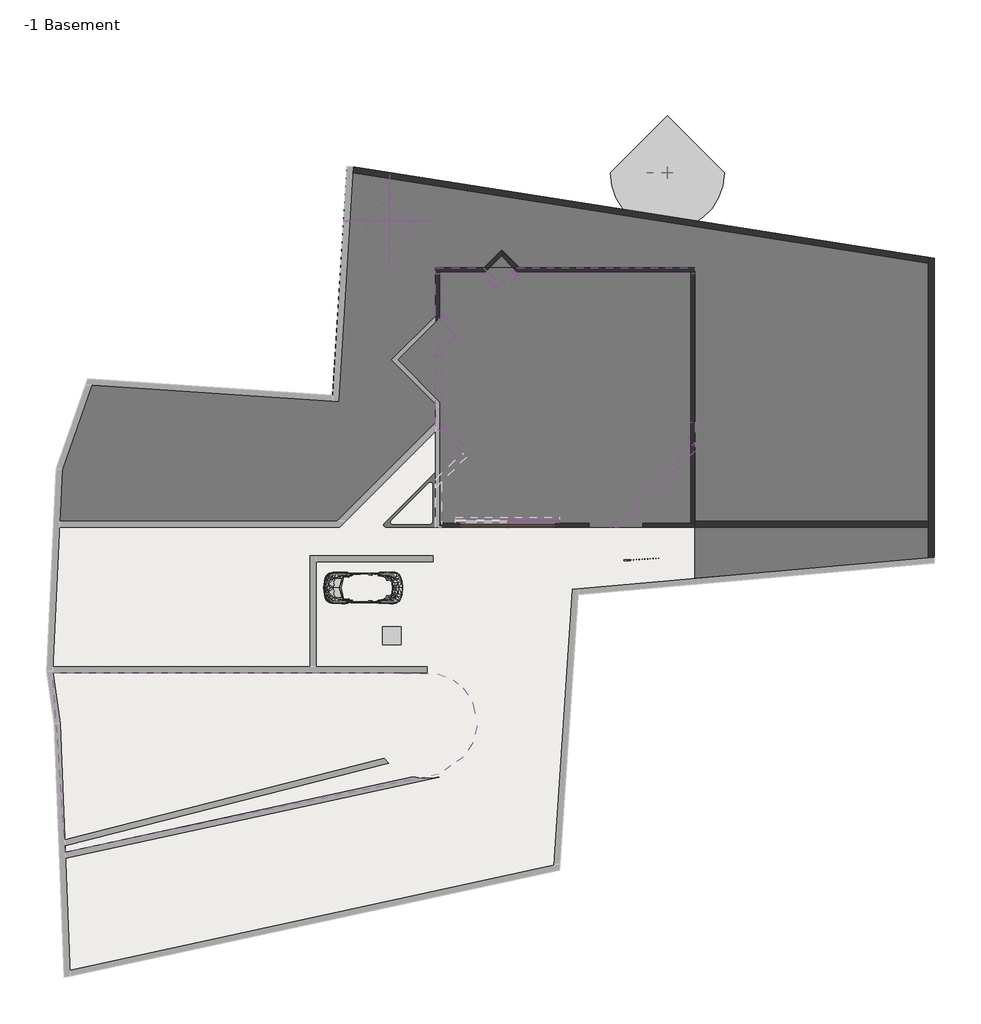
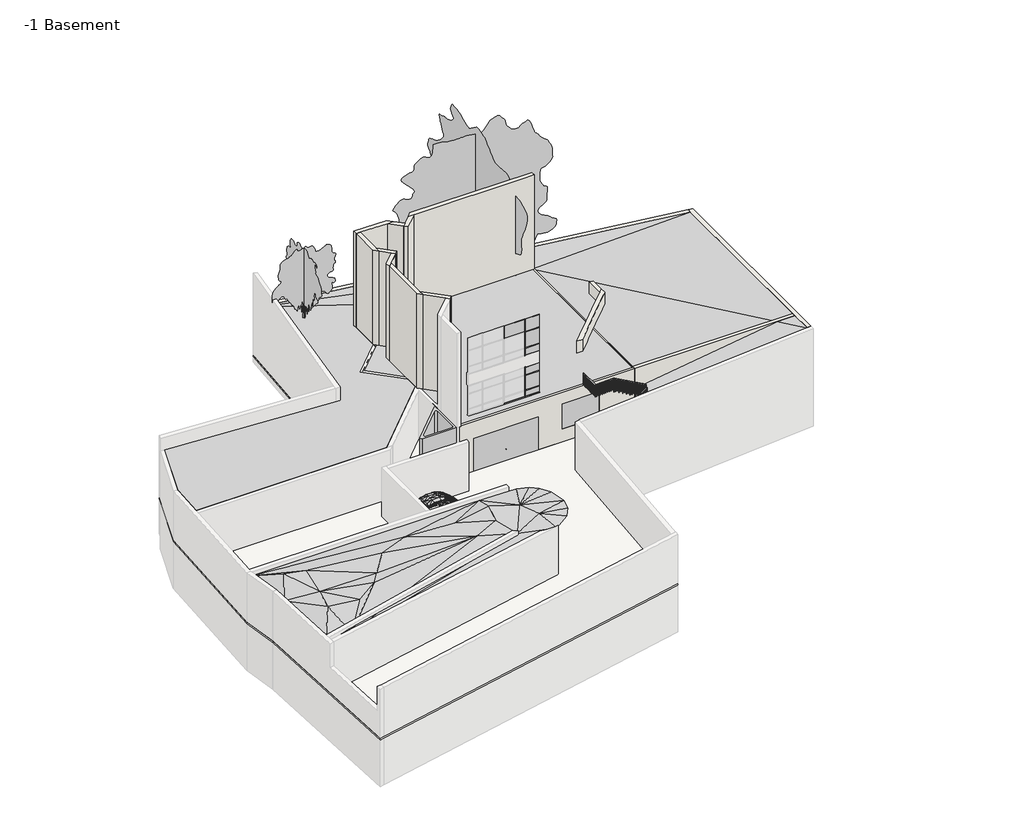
# One storey, part 2 of 2: 20 walls, 14 members, 7 plates, 7 proxies, 2 geographic elements, 2 slabs, 1 door, 1 railing.
"""IFC4 building model written with IfcOpenShell, lengths in millimetres."""

from ifc_helpers import new_model, si_unit, frame, origin, origin_with_axes, place, context, project, spatial, polyline, outline, extrude, faceted_brep, triangles, transform, mapped, element, save
from ifc_brep_helpers import plane_surface, spline_surface, advanced_brep
from components import generic_models_18_generic_models_18_6fc75e98, rpc_beetle_rpc_beetle_b6d71803, rpc_beetle_rpc_beetle_2_5a6a0a95, garage_horz_pnl_255_x_480cm_d9c095b1, m_rpc_tree_deciduous_golden_chain_5_5_meters_6778af60, m_rpc_tree_deciduous_scarlet_oak_12_5_meters_13b38d7d, rectangular_mullion_30mm_square_4687e423, rectangular_mullion_30mm_square_7fbbedd8, rectangular_mullion_30mm_square_75aafb43, rectangular_mullion_30mm_square_0d78bde2, rectangular_mullion_30mm_square_08ab3047, rectangular_mullion_30mm_square_f83bf9a0, rectangular_mullion_30mm_square_18d3f6a5, rectangular_mullion_30mm_square_d3a41906, rectangular_mullion_50_x_150mm_a0fd40aa, rectangular_mullion_50_x_150mm_81b7b0e2, system_panel_glazed_ab3019eb, system_panel_glazed_17731a82, system_panel_glazed_8e3a933b, system_panel_glazed_f915029c, system_panel_glazed_f884b1e2, system_panel_glazed_7ecb958b, system_panel_glazed_4e92a968, railing_900mm_5c761806

model = new_model("IFC4")

# Units and contexts
model_context = context("Model", 3, world=origin())
ifc_project = project(units=[si_unit("LENGTHUNIT", "METRE", prefix="MILLI")], contexts=[model_context])

# Site, building, storey
site = spatial("IfcSite", under=ifc_project)
building = spatial("IfcBuilding", under=site)
storey = spatial("IfcBuildingStorey", under=building, Name="-1 Basement", Elevation=-3800.0)

# Proxies
placement = place(None, origin())
element("IfcBuildingElementProxy", 1, Name="Building Element Proxy", at=placement, inside=storey, context=model_context, shape_type="Tessellation", body=[
    triangles([(-19194.8690643, -7299.999765, -300.0000023), (-18783.6116089, -10714.3227539, -300.0000023), (-18585.3388275, -15677.9267578, -300.0000023), (-2305.9245106, -11662.9171783, -300.0000023), (-2563.049659, -7299.999765, -300.0000023), (99.9998918, -7354.9417603, -300.0000023), (139.8018318, -12389.9297791, -300.0000023), (1868.9119411, -10802.6022491, -300.0000023), (1856.9100574, -8770.4175705, -300.0000023), (1377.2288715, -8063.4758377, -300.0000023), (880.8259592, -7665.8425507, -300.0000023), (2073.813969, -9957.2061768, -300.0000023), (1363.9179108, -11550.2042908, -300.0000023), (-16870.3504852, -15921.2537659, -300.0000023), (-18118.9777588, -16191.7360931, -300.0000023), (-18560.989151, -16287.4860626, -300.0000023), (-16130.5235504, -8884.7315231, 0.0), (-16556.7952057, -11326.1063416, 0.0), (-14774.2040131, -13341.2089233, 0.0), (-12410.3331848, -11364.8586273, 0.0), (-8883.9036667, -8807.227533, 0.0), (-5357.4735672, -9039.7395035, 0.0), (-2993.6030296, -10124.7947845, 0.0), (-823.4921768, -9388.5071686, 0.0), (-203.4605098, -10822.3301147, 0.0), (-4853.6979218, -11016.0903809, 0.0), (-11131.518219, -9892.2833954, 200.0000015), (-13185.3730865, -12411.162204, 200.0000015), (-17060.5714325, -13224.9532288, 200.0000015), (-17680.6021912, -8768.4758286, 200.0000015), (-2683.5870689, -8729.7235428, 200.0000015)], [[3, 16, 15], [16, 3, 1], [15, 16, 7], [3, 15, 14], [14, 19, 29], [19, 14, 28], [18, 19, 28], [19, 18, 29], [20, 28, 26], [14, 29, 3], [15, 7, 14], [3, 29, 2], [2, 18, 30], [18, 2, 29], [1, 30, 17], [30, 1, 2], [18, 17, 30], [2, 1, 3], [20, 27, 17], [21, 27, 26], [17, 21, 1], [21, 17, 27], [26, 27, 20], [20, 17, 18], [18, 28, 20], [1, 21, 5], [28, 14, 26], [26, 4, 23], [26, 14, 4], [25, 24, 4], [4, 24, 23], [4, 7, 25], [26, 23, 22], [8, 25, 13], [12, 25, 8], [13, 25, 7], [14, 7, 4], [24, 25, 12], [23, 31, 22], [31, 23, 24], [31, 5, 22], [5, 31, 24], [24, 6, 5], [22, 5, 21], [10, 11, 24], [6, 24, 11], [24, 9, 10], [24, 12, 9], [26, 22, 21]], closed=False),
])
element("IfcBuildingElementProxy", 2, Name="Basement Mass : Basement Mass", ObjectType="Basement Mass : Basement Mass", at=placement, inside=storey, context=model_context, shape_type="SweptSolid", body=[
    extrude(outline(polyline([(-0.0001061, 10571.6774773), (-0.0001061, 13000.0), (2428.3224166, 13000.0), (4171.9299029, 13000.0), (12999.9998939, 13000.0), (12999.9998939, -0.0002183), (-0.0001061, -0.0002183), (-0.0001061, 6176.8507655), (-2197.4135147, 8374.2640683), (-0.0001061, 10571.6774773)])), frame((0.0, 0.0, -3800.0), z_axis=(0.0, 0.0, 1.0), x_axis=(1.0, 0.0, 0.0)), (0.0, 0.0, 1.0), 3800.0),
])
generic_models_18_generic_models_18_shape = generic_models_18_generic_models_18_6fc75e98(model_context)
element("IfcBuildingElementProxy", 3, Name="Generic Models 18 : Generic Models 18", ObjectType="Generic Models 18 : Generic Models 18", at=placement, inside=storey, context=model_context, shape_type="MappedRepresentation", body=[
    mapped(generic_models_18_generic_models_18_shape, transform((0.0, 0.0, 0.0), x_axis=(1.0, 0.0, 0.0), y_axis=(0.0, 1.0, 0.0), z_axis=(0.0, 0.0, 1.0))),
])
element("IfcBuildingElementProxy", 4, Name="Mass 1 : Mass 1", ObjectType="Mass 1 : Mass 1", at=placement, inside=storey, context=model_context, shape_type="SweptSolid", body=[
    extrude(outline(polyline([(3300.1261598, 13871.8037432), (4171.9299029, 13000.0), (2428.3224166, 13000.0), (3300.1261598, 13871.8037432)])), frame((0.0, 0.0, -3800.0), z_axis=(0.0, 0.0, 1.0), x_axis=(1.0, 0.0, 0.0)), (0.0, 0.0, 1.0), 3800.0),
])
element("IfcBuildingElementProxy", 5, Name="Mass 4 : Mass 4", ObjectType="Mass 4 : Mass 4", at=placement, inside=storey, context=model_context, shape_type="AdvancedBrep", body=[
    advanced_brep(
    [(-17236.1757773, 7108.7626362, 0.0), (-4874.7149452, 6292.0078471, 0.0), (-4874.7149452, 6292.0078471, -3800.0), (-17236.1757773, 7108.7626362, -3800.0), (-18722.4830963, 2870.3642585, 0.0), (-18722.4830963, 2870.3642585, -3800.0), (-18846.1683426, 300.0, 0.0), (-18846.1683426, 300.0, -3800.0), (-4932.5902868, 300.0, 0.0), (-4932.5902868, 300.0, -3800.0), (-0.0001061, 5232.5901808, 0.0), (-0.0001061, 5232.5901808, -3800.0), (-0.0001061, 6296.8506597, 0.0), (-0.0001061, 6296.8506597, -3800.0), (-2047.4135147, 8344.2640683, 0.0), (-2047.4135147, 8344.2640683, -3800.0), (-0.0001061, 10391.6774773, 0.0), (-0.0001061, 10391.6774773, -3800.0), (-0.0001061, 13000.0, 0.0), (-0.0001061, 13000.0, -3800.0), (2488.3224166, 13000.0, 0.0), (2488.3224166, 13000.0, -3800.0), (3360.1261598, 13871.8037432, 0.0), (3360.1261598, 13871.8037432, -3800.0), (4231.9299029, 13000.0, 0.0), (4231.9299029, 13000.0, -3800.0), (13009.9750628, 12968.4174969, -150.0), (13000.0001123, 13000.0, -3800.0), (13000.0001123, -2573.8285121, -1802.358362), (13000.0001123, -2573.8285121, -3800.0), (24699.999894, -1565.3212522, 0.0), (24699.999894, -1565.3212522, -3800.0), (24699.999894, 13210.5247837, 0.0), (24699.999894, 13210.5247837, -3800.0), (-4150.0124004, 17746.0058263, 0.0), (-4150.0124004, 17746.0058263, -3800.0)],
    [
        (0, 1),
        (1, 2),
        (2, 3),
        (3, 0),
        (4, 0),
        (3, 5),
        (5, 4),
        (6, 4),
        (5, 7),
        (7, 6),
        (8, 6),
        (7, 9),
        (9, 8),
        (10, 8),
        (9, 11),
        (11, 10),
        (12, 10),
        (11, 13),
        (13, 12),
        (14, 12),
        (13, 15),
        (15, 14),
        (16, 14),
        (15, 17),
        (17, 16),
        (18, 16),
        (17, 19),
        (19, 18),
        (20, 18),
        (19, 21),
        (21, 20),
        (22, 20),
        (21, 23),
        (23, 22),
        (24, 22),
        (23, 25),
        (25, 24),
        (26, 24),
        (25, 27),
        (27, 26),
        (28, 26),
        (27, 29),
        (29, 28),
        (30, 28),
        (29, 31),
        (31, 30),
        (32, 30),
        (31, 33),
        (33, 32),
        (34, 32),
        (33, 35),
        (35, 34),
        (1, 34),
        (35, 2),
        (30, 26),
        (22, 26),
        (26, 34),
        (34, 22),
        (26, 32),
    ],
    [
        plane_surface(frame((-11055.4453612, 6700.3852416, 0.0), z_axis=(0.06592892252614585, 0.9978243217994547, 0.0), x_axis=(0.9978243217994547, -0.06592892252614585, 0.0))),
        plane_surface(frame((-17979.3294368, 4989.5634474, 0.0), z_axis=(-0.9436590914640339, 0.33091920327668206, 0.0), x_axis=(0.33091920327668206, 0.9436590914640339, 0.0))),
        plane_surface(frame((-18784.3257194, 1585.1821293, 0.0), z_axis=(-0.998844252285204, 0.048064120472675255, 0.0), x_axis=(0.048064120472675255, 0.998844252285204, 0.0))),
        plane_surface(frame((-11889.3793147, 300.0, 0.0), z_axis=(0.0, -1.0, 0.0), x_axis=(-1.0, 0.0, 0.0))),
        plane_surface(frame((-2466.2951964, 2766.2950904, 0.0), z_axis=(0.7071067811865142, -0.7071067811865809, 0.0), x_axis=(-0.7071067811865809, -0.7071067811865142, 0.0))),
        plane_surface(frame((-0.0001061, 5764.7204202, 0.0), z_axis=(1.0, 0.0, 0.0), x_axis=(0.0, -1.0, 0.0))),
        plane_surface(frame((-1023.7068104, 7320.557364, 0.0), z_axis=(0.7071067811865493, 0.7071067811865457, 0.0), x_axis=(0.7071067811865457, -0.7071067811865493, 0.0))),
        plane_surface(frame((-1023.7068104, 9367.9707728, 0.0), z_axis=(0.7071067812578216, -0.7071067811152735, 0.0), x_axis=(-0.7071067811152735, -0.7071067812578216, 0.0))),
        plane_surface(frame((-0.0001061, 11695.8387386, 0.0), z_axis=(1.0, 0.0, 0.0), x_axis=(0.0, -1.0, 0.0))),
        plane_surface(frame((1244.1611553, 13000.0, 0.0), z_axis=(0.0, -1.0, 0.0), x_axis=(-1.0, 0.0, 0.0))),
        plane_surface(frame((2924.2242882, 13435.9018716, 0.0), z_axis=(0.7071067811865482, -0.7071067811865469, 0.0), x_axis=(-0.7071067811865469, -0.7071067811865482, 0.0))),
        plane_surface(frame((3796.0280314, 13435.9018716, 0.0), z_axis=(-0.7071067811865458, -0.7071067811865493, 0.0), x_axis=(-0.7071067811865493, 0.7071067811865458, 0.0))),
        spline_surface(1, 1, [[(13009.9750628, 12968.4174969, -150.0), (13000.0001123, 13000.0, -3800.0)], [(4231.9299029, 13000.0, 0.0), (4231.9299029, 13000.0, -3800.0)]], [2, 2], [2, 2], [0.0, 1.0], [0.0, 1.0]),
        spline_surface(1, 1, [[(13000.0001123, -2573.8285121, -1802.358362), (13000.0001123, -2573.8285121, -3800.0)], [(13009.9750628, 12968.4174969, -150.0), (13000.0001123, 13000.0, -3800.0)]], [2, 2], [2, 2], [0.0, 1.0], [0.0, 1.0]),
        plane_surface(frame((18850.0000031, -2069.5748821, -901.179181), z_axis=(0.08587875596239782, -0.9963055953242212, 0.0), x_axis=(-0.9963055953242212, -0.08587875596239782, 0.0))),
        plane_surface(frame((24699.999894, 5822.6017658, 0.0), z_axis=(1.0, 0.0, 0.0), x_axis=(0.0, -1.0, 0.0))),
        plane_surface(frame((10274.9937468, 15478.265305, 0.0), z_axis=(0.1553015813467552, 0.987867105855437, 0.0), x_axis=(0.987867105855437, -0.1553015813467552, 0.0))),
        plane_surface(frame((-4512.3636728, 12019.0068367, 0.0), z_axis=(-0.9980043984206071, 0.06314444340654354, 0.0), x_axis=(0.06314444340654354, 0.9980043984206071, 0.0))),
        plane_surface(frame((815.0455391, 7768.0945398, -3800.0), z_axis=(0.0, 0.0, -1.0), x_axis=(-0.9963055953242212, -0.08587875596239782, 0.0))),
        plane_surface(frame((16903.325023, 2943.0892442, -650.7861207), z_axis=(-0.14260859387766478, -0.1045471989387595, 0.9842421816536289), x_axis=(-0.0006381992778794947, -0.9943959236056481, -0.10571820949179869))),
        plane_surface(frame((4073.3629407, 14862.0756888, -50.0), z_axis=(0.018974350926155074, 0.036781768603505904, 0.9991431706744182), x_axis=(0.9955273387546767, -0.09319790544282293, -0.015474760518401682))),
        plane_surface(frame((6867.3437085, 13280.0737467, -50.0), z_axis=(0.01714474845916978, 0.01714474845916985, 0.9997060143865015), x_axis=(0.707106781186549, -0.7071067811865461, 0.0))),
        plane_surface(frame((11186.6541855, 14641.649369, -50.0), z_axis=(-0.0113077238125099, -0.07192797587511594, 0.9973457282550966), x_axis=(0.9997033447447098, 0.020704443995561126, 0.012827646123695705))),
        plane_surface(frame((-4997.0084778, 8058.0251306, 0.0), z_axis=(0.0, 0.0, 1.0), x_axis=(-0.9978243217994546, 0.06592892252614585, 0.0))),
        plane_surface(frame((20803.3249503, 8204.5403428, -50.0), z_axis=(-0.012830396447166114, 0.0, 0.9999176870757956), x_axis=(0.6267332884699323, -0.7791923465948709, 0.008041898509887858))),
    ],
    [
        (0, [[1, 2, 3, 4]]),
        (1, [[5, -4, 6, 7]]),
        (2, [[8, -7, 9, 10]]),
        (3, [[11, -10, 12, 13]]),
        (4, [[14, -13, 15, 16]]),
        (5, [[17, -16, 18, 19]]),
        (6, [[20, -19, 21, 22]]),
        (7, [[23, -22, 24, 25]]),
        (8, [[26, -25, 27, 28]]),
        (9, [[29, -28, 30, 31]]),
        (10, [[32, -31, 33, 34]]),
        (11, [[35, -34, 36, 37]]),
        (12, [[38, -37, 39, 40]]),
        (13, [[41, -40, 42, 43]]),
        (14, [[44, -43, 45, 46]]),
        (15, [[47, -46, 48, 49]]),
        (16, [[50, -49, 51, 52]]),
        (17, [[53, -52, 54, -2]]),
        (18, [[-45, -42, -39, -36, -33, -30, -27, -24, -21, -18, -15, -12, -9, -6, -3, -54, -51, -48]]),
        (19, [[-41, -44, 55]]),
        (20, [[56, 57, 58]]),
        (21, [[-35, -38, -56]]),
        (22, [[59, -50, -57]]),
        (23, [[-1, -5, -8, -11, -14, -17, -20, -23, -26, -29, -32, -58, -53]]),
        (24, [[-55, -47, -59]]),
    ],
),
])
rpc_beetle_rpc_beetle_shape = rpc_beetle_rpc_beetle_b6d71803(model_context)
element("IfcBuildingElementProxy", 6, Name="RPC Beetle : RPC Beetle", ObjectType="RPC Beetle : RPC Beetle", at=placement, inside=storey, context=model_context, shape_type="MappedRepresentation", body=[
    mapped(rpc_beetle_rpc_beetle_shape, transform((-2400.0001061, -3050.0, -3800.0), x_axis=(0.0, 1.0, 0.0), y_axis=(-1.0, 0.0, 0.0), z_axis=(0.0, 0.0, 1.0))),
])
rpc_beetle_rpc_beetle_2_shape = rpc_beetle_rpc_beetle_2_5a6a0a95(model_context)
element("IfcBuildingElementProxy", 7, Name="RPC Beetle : RPC Beetle 2", ObjectType="RPC Beetle : RPC Beetle 2", at=placement, inside=storey, context=model_context, shape_type="MappedRepresentation", body=[
    mapped(rpc_beetle_rpc_beetle_2_shape, transform((-2200.0001061, -5450.0, -3800.0), x_axis=(0.0, 1.0, 0.0), y_axis=(-1.0, 0.0, 0.0), z_axis=(0.0, 0.0, 1.0))),
])

# Door
garage_horz_pnl_255_x_480cm_shape = garage_horz_pnl_255_x_480cm_d9c095b1(model_context)
element("IfcDoor", 8, ObjectType="Garage - Horz Pnl : 255 x 480cm", at=placement, inside=storey, context=model_context, shape_type="MappedRepresentation", body=[
    mapped(garage_horz_pnl_255_x_480cm_shape, transform((4864.500082, 99.9998004, -3800.0), x_axis=(-1.0, 0.0, 0.0), y_axis=(0.0, -1.0, 0.0), z_axis=(0.0, 0.0, 1.0))),
])

# Geographic elements
m_rpc_tree_deciduous_golden_chain_5_5_meters_shape = m_rpc_tree_deciduous_golden_chain_5_5_meters_6778af60(model_context)
element("IfcGeographicElement", 9, ObjectType="M_RPC Tree - Deciduous : Golden Chain - 5.5 Meters", at=placement, inside=storey, context=model_context, shape_type="MappedRepresentation", body=[
    mapped(m_rpc_tree_deciduous_golden_chain_5_5_meters_shape, transform((-2300.0001061, 15346.0058263, -50.0), x_axis=(1.0, 0.0, 0.0), y_axis=(0.0, 1.0, 0.0), z_axis=(0.0, 0.0, 1.0))),
])
m_rpc_tree_deciduous_scarlet_oak_12_5_meters_shape = m_rpc_tree_deciduous_scarlet_oak_12_5_meters_13b38d7d(model_context)
element("IfcGeographicElement", 10, ObjectType="M_RPC Tree - Deciduous : Scarlet Oak - 12.5 Meters", at=placement, inside=storey, context=model_context, shape_type="MappedRepresentation", body=[
    mapped(m_rpc_tree_deciduous_scarlet_oak_12_5_meters_shape, transform((11615.634854, 17748.2251408, -3800.0), x_axis=(1.0, 0.0, 0.0), y_axis=(0.0, 1.0, 0.0), z_axis=(0.0, 0.0, 1.0))),
])

# Members
rectangular_mullion_30mm_square_shape = rectangular_mullion_30mm_square_4687e423(model_context)
element("IfcMember", 11, ObjectType="Rectangular Mullion : 30mm Square", at=placement, inside=storey, context=model_context, shape_type="MappedRepresentation", body=[
    mapped(rectangular_mullion_30mm_square_shape, transform((5140.000082, 300.0, 5422.5), x_axis=(-1.0, 0.0, 0.0), y_axis=(0.0, 1.0, 0.0), z_axis=(0.0, 0.0, -1.0))),
])
rectangular_mullion_30mm_square_2_shape = rectangular_mullion_30mm_square_7fbbedd8(model_context)
element("IfcMember", 12, ObjectType="Rectangular Mullion : 30mm Square", at=placement, inside=storey, context=model_context, shape_type="MappedRepresentation", body=[
    mapped(rectangular_mullion_30mm_square_2_shape, transform((5140.000082, 300.0, 4175.0), x_axis=(-1.0, 0.0, 0.0), y_axis=(0.0, 1.0, 0.0), z_axis=(0.0, 0.0, -1.0))),
])
rectangular_mullion_30mm_square_3_shape = rectangular_mullion_30mm_square_75aafb43(model_context)
element("IfcMember", 13, ObjectType="Rectangular Mullion : 30mm Square", at=placement, inside=storey, context=model_context, shape_type="MappedRepresentation", body=[
    mapped(rectangular_mullion_30mm_square_3_shape, transform((5140.000082, 300.0, 900.0), x_axis=(0.0, 0.0, 1.0), y_axis=(0.0, 1.0, 0.0), z_axis=(-1.0, 0.0, 0.0))),
])
element("IfcMember", 14, ObjectType="Rectangular Mullion : 30mm Square", at=placement, inside=storey, context=model_context, shape_type="MappedRepresentation", body=[
    mapped(rectangular_mullion_30mm_square_3_shape, transform((5140.000082, 300.0, 2075.0), x_axis=(0.0, 0.0, 1.0), y_axis=(0.0, 1.0, 0.0), z_axis=(-1.0, 0.0, 0.0))),
])
rectangular_mullion_30mm_square_4_shape = rectangular_mullion_30mm_square_0d78bde2(model_context)
element("IfcMember", 15, ObjectType="Rectangular Mullion : 30mm Square", at=placement, inside=storey, context=model_context, shape_type="MappedRepresentation", body=[
    mapped(rectangular_mullion_30mm_square_4_shape, transform((5165.000082, 300.0, 5422.5), x_axis=(0.0, 0.0, 1.0), y_axis=(0.0, 1.0, 0.0), z_axis=(-1.0, 0.0, 0.0))),
])
element("IfcMember", 16, ObjectType="Rectangular Mullion : 30mm Square", at=placement, inside=storey, context=model_context, shape_type="MappedRepresentation", body=[
    mapped(rectangular_mullion_30mm_square_4_shape, transform((5165.000082, 300.0, 4175.0), x_axis=(0.0, 0.0, 1.0), y_axis=(0.0, 1.0, 0.0), z_axis=(-1.0, 0.0, 0.0))),
])
element("IfcMember", 17, ObjectType="Rectangular Mullion : 30mm Square", at=placement, inside=storey, context=model_context, shape_type="MappedRepresentation", body=[
    mapped(rectangular_mullion_30mm_square_4_shape, transform((5165.000082, 300.0, 3600.0), x_axis=(0.0, 0.0, 1.0), y_axis=(0.0, 1.0, 0.0), z_axis=(-1.0, 0.0, 0.0))),
])
element("IfcMember", 18, ObjectType="Rectangular Mullion : 30mm Square", at=placement, inside=storey, context=model_context, shape_type="MappedRepresentation", body=[
    mapped(rectangular_mullion_30mm_square_4_shape, transform((5165.000082, 300.0, 2700.0), x_axis=(0.0, 0.0, 1.0), y_axis=(0.0, 1.0, 0.0), z_axis=(-1.0, 0.0, 0.0))),
])
rectangular_mullion_30mm_square_5_shape = rectangular_mullion_30mm_square_08ab3047(model_context)
element("IfcMember", 19, ObjectType="Rectangular Mullion : 30mm Square", at=placement, inside=storey, context=model_context, shape_type="MappedRepresentation", body=[
    mapped(rectangular_mullion_30mm_square_5_shape, transform((5140.000082, 300.0, 925.0), x_axis=(-1.0, 0.0, 0.0), y_axis=(0.0, 1.0, 0.0), z_axis=(0.0, 0.0, -1.0))),
])
rectangular_mullion_30mm_square_6_shape = rectangular_mullion_30mm_square_f83bf9a0(model_context)
element("IfcMember", 20, ObjectType="Rectangular Mullion : 30mm Square", at=placement, inside=storey, context=model_context, shape_type="MappedRepresentation", body=[
    mapped(rectangular_mullion_30mm_square_6_shape, transform((5140.000082, 300.0, 450.0), x_axis=(-1.0, 0.0, 0.0), y_axis=(0.0, 1.0, 0.0), z_axis=(0.0, 0.0, -1.0))),
])
rectangular_mullion_30mm_square_7_shape = rectangular_mullion_30mm_square_18d3f6a5(model_context)
element("IfcMember", 21, ObjectType="Rectangular Mullion : 30mm Square", at=placement, inside=storey, context=model_context, shape_type="MappedRepresentation", body=[
    mapped(rectangular_mullion_30mm_square_7_shape, transform((5140.000082, 300.0, 2100.0), x_axis=(-1.0, 0.0, 0.0), y_axis=(0.0, 1.0, 0.0), z_axis=(0.0, 0.0, -1.0))),
])
rectangular_mullion_30mm_square_8_shape = rectangular_mullion_30mm_square_d3a41906(model_context)
element("IfcMember", 22, ObjectType="Rectangular Mullion : 30mm Square", at=placement, inside=storey, context=model_context, shape_type="MappedRepresentation", body=[
    mapped(rectangular_mullion_30mm_square_8_shape, transform((5140.000082, 300.0, 3575.0), x_axis=(-1.0, 0.0, 0.0), y_axis=(0.0, 1.0, 0.0), z_axis=(0.0, 0.0, -1.0))),
])
rectangular_mullion_50_x_150mm_shape = rectangular_mullion_50_x_150mm_a0fd40aa(model_context)
element("IfcMember", 23, ObjectType="Rectangular Mullion : 50 x 150mm", at=placement, inside=storey, context=model_context, shape_type="MappedRepresentation", body=[
    mapped(rectangular_mullion_50_x_150mm_shape, transform((5140.000082, 300.0, 400.0), x_axis=(0.0, 0.0, -1.0), y_axis=(0.0, 1.0, 0.0), z_axis=(1.0, 0.0, 0.0))),
])
rectangular_mullion_50_x_150mm_2_shape = rectangular_mullion_50_x_150mm_81b7b0e2(model_context)
element("IfcMember", 24, ObjectType="Rectangular Mullion : 50 x 150mm", at=placement, inside=storey, context=model_context, shape_type="MappedRepresentation", body=[
    mapped(rectangular_mullion_50_x_150mm_2_shape, transform((6200.000082, 300.0, 400.0), x_axis=(0.0, 0.0, -1.0), y_axis=(0.0, 1.0, 0.0), z_axis=(1.0, 0.0, 0.0))),
])

# Plates
system_panel_glazed_shape = system_panel_glazed_ab3019eb(model_context)
element("IfcPlate", 25, ObjectType="System Panel : Glazed", at=placement, inside=storey, context=model_context, shape_type="MappedRepresentation", body=[
    mapped(system_panel_glazed_shape, transform((5682.500082, 300.0, 450.0), x_axis=(-1.0, 0.0, 0.0), y_axis=(0.0, -1.0, 0.0), z_axis=(0.0, 0.0, 1.0))),
])
system_panel_glazed_2_shape = system_panel_glazed_17731a82(model_context)
element("IfcPlate", 26, ObjectType="System Panel : Glazed", at=placement, inside=storey, context=model_context, shape_type="MappedRepresentation", body=[
    mapped(system_panel_glazed_2_shape, transform((5682.500082, 300.0, 4200.0), x_axis=(-1.0, 0.0, 0.0), y_axis=(0.0, -1.0, 0.0), z_axis=(0.0, 0.0, 1.0))),
])
system_panel_glazed_3_shape = system_panel_glazed_8e3a933b(model_context)
element("IfcPlate", 27, ObjectType="System Panel : Glazed", at=placement, inside=storey, context=model_context, shape_type="MappedRepresentation", body=[
    mapped(system_panel_glazed_3_shape, transform((5682.500082, 300.0, 3625.0), x_axis=(-1.0, 0.0, 0.0), y_axis=(0.0, -1.0, 0.0), z_axis=(0.0, 0.0, 1.0))),
])
system_panel_glazed_4_shape = system_panel_glazed_f915029c(model_context)
element("IfcPlate", 28, ObjectType="System Panel : Glazed", at=placement, inside=storey, context=model_context, shape_type="MappedRepresentation", body=[
    mapped(system_panel_glazed_4_shape, transform((5682.500082, 300.0, 2100.0), x_axis=(-1.0, 0.0, 0.0), y_axis=(0.0, -1.0, 0.0), z_axis=(0.0, 0.0, 1.0))),
])
system_panel_glazed_5_shape = system_panel_glazed_f884b1e2(model_context)
element("IfcPlate", 29, ObjectType="System Panel : Glazed", at=placement, inside=storey, context=model_context, shape_type="MappedRepresentation", body=[
    mapped(system_panel_glazed_5_shape, transform((5682.500082, 300.0, 925.0), x_axis=(-1.0, 0.0, 0.0), y_axis=(0.0, -1.0, 0.0), z_axis=(0.0, 0.0, 1.0))),
])
system_panel_glazed_6_shape = system_panel_glazed_7ecb958b(model_context)
element("IfcPlate", 30, ObjectType="System Panel : Glazed", at=placement, inside=storey, context=model_context, shape_type="MappedRepresentation", body=[
    mapped(system_panel_glazed_6_shape, transform((5682.500082, 300.0, 5447.5), x_axis=(-1.0, 0.0, 0.0), y_axis=(0.0, -1.0, 0.0), z_axis=(0.0, 0.0, 1.0))),
])
system_panel_glazed_7_shape = system_panel_glazed_4e92a968(model_context)
element("IfcPlate", 31, ObjectType="System Panel : Glazed", at=placement, inside=storey, context=model_context, shape_type="MappedRepresentation", body=[
    mapped(system_panel_glazed_7_shape, transform((4370.000082, 300.0, 5447.5), x_axis=(-1.0, 0.0, 0.0), y_axis=(0.0, -1.0, 0.0), z_axis=(0.0, 0.0, 1.0))),
])

# Railing
railing_900mm_shape = railing_900mm_5c761806(model_context)
element("IfcRailing", 32, ObjectType="900mm", at=placement, inside=storey, context=model_context, shape_type="MappedRepresentation", body=[
    mapped(railing_900mm_shape, transform((0.0, 0.0, 0.0), x_axis=(1.0, 0.0, 0.0), y_axis=(0.0, 1.0, 0.0), z_axis=(0.0, 0.0, 1.0))),
])

# Slabs
element("IfcSlab", 33, ObjectType="Generic 150mm", at=placement, inside=storey, context=model_context, shape_type="SweptSolid", body=[
    extrude(outline(polyline([(12899.9998939, 12900.0), (12899.9998939, 99.9998004), (99.9998939, 99.9998004), (99.9998939, 12900.0), (12899.9998939, 12900.0)])), frame((0.0, 0.0, -3800.0), z_axis=(0.0, 0.0, 1.0), x_axis=(1.0, 0.0, 0.0)), (0.0, 0.0, 1.0), 150.0),
])
element("IfcSlab", 34, ObjectType="Generic 150mm", at=placement, inside=storey, context=model_context, shape_type="Brep", body=[
    faceted_brep([(24999.999894, 13467.0466621, -3950.0), (24999.999894, -1811.5847233, -3950.0), (7138.4157732, -3405.4147545, -3950.0), (6241.8535177, -16882.8420465, -3950.0), (6221.1350987, -17194.2883338, -3950.0), (-18312.4744999, -22508.8514685, -3950.0), (-18610.1380323, -22573.3324667, -3950.0), (-19118.2456302, -9853.2685429, -3950.0), (-19508.7912641, -7228.6324394, -3950.0), (-19020.0367338, 2928.4171143, -3950.0), (-17546.8879496, 7129.2922207, -3950.0), (-17443.8431327, 7423.1379006, -3950.0), (-5155.1200003, 6611.1890859, -3950.0), (-4428.6266418, 18093.4910601, -3950.0), (-4130.9873004, 18046.6994825, -3950.0), (24999.999894, 13467.0466621, -3800.0), (24699.999894, 13514.2093565, -3800.0), (-4130.9873004, 18046.6994825, -3800.0), (-4428.6266418, 18093.4910601, -3800.0), (-5155.1200003, 6611.1890859, -3800.0), (-17443.8431327, 7423.1379006, -3800.0), (-17546.8879496, 7129.2922207, -3800.0), (-19020.0367338, 2928.4171143, -3800.0), (-19508.7912641, -7228.6324394, -3800.0), (-19118.2456302, -9853.2685429, -3800.0), (-18610.1380323, -22573.3324667, -3800.0), (-18312.4744999, -22508.8514685, -3800.0), (6221.1350987, -17194.2883338, -3800.0), (6241.8535177, -16882.8420465, -3800.0), (7138.4157732, -3405.4147545, -3800.0), (24999.999894, -1811.5847233, -3800.0)], [[[0, 1, 2, 3, 4, 5, 6, 7, 8, 9, 10, 11, 12, 13, 14]], [[15, 16, 17, 18, 19, 20, 21, 22, 23, 24, 25, 26, 27, 28, 29, 30]], [[1, 0, 15, 30]], [[2, 1, 30, 29]], [[4, 3, 2, 29, 28, 27]], [[6, 5, 4, 27, 26, 25]], [[7, 6, 25, 24]], [[8, 7, 24, 23]], [[9, 8, 23, 22]], [[11, 10, 9, 22, 21, 20]], [[12, 11, 20, 19]], [[13, 12, 19, 18]], [[0, 14, 13, 18, 17, 16, 15]]]),
])

# Walls
element("IfcWall", 35, ObjectType="Generic - 200mm", at=placement, inside=storey, context=model_context, shape_type="Brep", body=[
    faceted_brep([(-0.0001061, 13000.0, 0.0), (2428.3224166, 13000.0, 0.0), (2711.1651291, 13000.0, 0.0), (2711.1651291, 13000.0, -3800.0), (2428.3224166, 13000.0, -3800.0), (-0.0001061, 13000.0, -3800.0), (-0.0001061, 12800.0, 0.0), (-0.0001061, 12800.0, -3800.0), (199.9998939, 12800.0, -3800.0), (2511.1651291, 12800.0, -3800.0), (2511.1651291, 12800.0, 0.0), (199.9998939, 12800.0, 0.0)], [[[0, 1, 2, 3, 4, 5]], [[6, 7, 8, 9, 10, 11]], [[2, 1, 0, 6, 11, 10]], [[5, 4, 3, 9, 8, 7]], [[3, 2, 10, 9]], [[0, 5, 7, 6]]]),
    faceted_brep([(12999.9998939, 13000.0, -3800.0), (4171.9299029, 13000.0, -3800.0), (3889.0871905, 13000.0, -3800.0), (3889.0871905, 13000.0, 0.0), (4171.9299029, 13000.0, 0.0), (12999.9998939, 13000.0, 0.0), (12999.9998939, 12800.0, -3800.0), (12999.9998939, 12800.0, 0.0), (12920.0001123, 12800.0, 0.0), (4089.0871905, 12800.0, 0.0), (4089.0871905, 12800.0, -3800.0), (12799.9998939, 12800.0, -3800.0)], [[[0, 1, 2, 3, 4, 5]], [[6, 7, 8, 9, 10, 11]], [[2, 1, 0, 6, 11, 10]], [[5, 4, 3, 9, 8, 7]], [[3, 2, 10, 9]], [[0, 5, 7, 6]]]),
])
element("IfcWall", 36, ObjectType="Generic - 200mm", at=placement, inside=storey, context=model_context, shape_type="Brep", body=[
    faceted_brep([(3300.1261598, 13871.8037432, -3800.0), (2428.3224166, 13000.0, -3800.0), (2428.3224166, 13000.0, 0.0), (3300.1261598, 13871.8037432, 0.0), (3441.547516, 13730.3823869, -3800.0), (3441.547516, 13730.3823869, 0.0), (3300.1261598, 13588.9610307, 0.0), (2711.1651291, 13000.0, 0.0), (2711.1651291, 13000.0, -3800.0), (3300.1261598, 13588.9610307, -3800.0)], [[[0, 1, 2, 3]], [[4, 5, 6, 7, 8, 9]], [[1, 0, 4, 9, 8]], [[3, 2, 7, 6, 5]], [[2, 1, 8, 7]], [[0, 3, 5, 4]]]),
])
element("IfcWall", 37, ObjectType="Generic - 200mm", at=placement, inside=storey, context=model_context, shape_type="SweptSolid", body=[
    extrude(outline(polyline([(3441.547516, 13730.3823869), (4171.9299029, 13000.0), (3889.0871905, 13000.0), (3300.1261598, 13588.9610307), (3441.547516, 13730.3823869)])), frame((0.0, 0.0, -3800.0), z_axis=(0.0, 0.0, 1.0), x_axis=(1.0, 0.0, 0.0)), (0.0, 0.0, 1.0), 3800.0),
])
element("IfcWall", 38, ObjectType="Generic - 200mm", at=placement, inside=storey, context=model_context, shape_type="Brep", body=[
    faceted_brep([(-0.0001061, 12800.0, -3800.0), (-0.0001061, 10571.6774773, -3800.0), (-0.0001061, 10288.8347648, -3800.0), (-0.0001061, 10288.8347648, 0.0), (-0.0001061, 10571.6774773, 0.0), (-0.0001061, 12800.0, 0.0), (199.9998939, 12800.0, -3800.0), (199.9998939, 12800.0, 0.0), (199.9998939, 10488.8347648, 0.0), (199.9998939, 10488.8347648, -3800.0)], [[[0, 1, 2, 3, 4, 5]], [[6, 7, 8, 9]], [[2, 1, 0, 6, 9]], [[5, 4, 3, 8, 7]], [[0, 5, 7, 6]], [[3, 2, 9, 8]]]),
])
element("IfcWall", 39, ObjectType="Generic - 200mm", at=placement, inside=storey, context=model_context, shape_type="Brep", body=[
    faceted_brep([(199.9998939, -0.0001996, -3800.0), (1200.000082, -0.0001996, -3800.0), (1200.000082, -0.0001996, -1250.0), (6000.000082, -0.0001996, -1250.0), (6000.000082, -0.0001996, -3800.0), (12999.9998939, -0.0001996, -3800.0), (12999.9998939, -0.0001996, 0.0), (199.9998939, -0.0001996, 0.0), (10400.0097917, -0.0001996, -850.0), (10400.0097917, -0.0001996, -2800.0), (7692.387831, -0.0001996, -2800.0), (7692.387831, -0.0001996, -850.0), (1200.000082, 199.9998004, -1250.0), (1200.000082, 199.9998004, -3800.0), (199.9998939, 199.9998004, -3800.0), (199.9998939, 199.9998004, 0.0), (12920.0001123, 199.9998004, 0.0), (12999.9998939, 199.9998004, 0.0), (12999.9998939, 199.9998004, -3800.0), (12799.9998939, 199.9998004, -3800.0), (6000.000082, 199.9998004, -3800.0), (6000.000082, 199.9998004, -1250.0), (10400.0097917, 199.9998004, -850.0), (7692.387831, 199.9998004, -850.0), (7692.387831, 199.9998004, -2800.0), (10400.0097917, 199.9998004, -2800.0)], [[[0, 1, 2, 3, 4, 5, 6, 7], [8, 9, 10, 11]], [[12, 13, 14, 15, 16, 17, 18, 19, 20, 21], [22, 23, 24, 25]], [[0, 7, 15, 14]], [[6, 5, 18, 17]], [[4, 3, 21, 20]], [[2, 1, 13, 12]], [[3, 2, 12, 21]], [[14, 13, 1, 0]], [[20, 19, 18, 5, 4]], [[7, 6, 17, 16, 15]], [[9, 8, 22, 25]], [[10, 9, 25, 24]], [[11, 10, 24, 23]], [[8, 11, 23, 22]]]),
])
element("IfcWall", 40, ObjectType="Generic - 200mm", at=placement, inside=storey, context=model_context, shape_type="Brep", body=[
    faceted_brep([(12999.9998939, 199.9998004, -3800.0), (12999.9998939, 12800.0, -3800.0), (12999.9998939, 12800.0, 0.0), (12999.9998939, 299.9997817, 0.0), (12999.9998939, 199.9998004, 0.0), (12799.9998939, 12800.0, -3800.0), (12799.9998939, 199.9998004, -3800.0), (12799.9998939, 199.9998004, -150.0), (12799.9998939, 12800.0, -150.0), (12920.0001123, 12800.0, 0.0), (12920.0001123, 199.9998004, 0.0), (12920.0001123, 12800.0, -150.0), (12920.0001123, 199.9998004, -150.0)], [[[0, 1, 2, 3, 4]], [[5, 6, 7, 8]], [[1, 0, 6, 5]], [[4, 3, 2, 9, 10]], [[2, 1, 5, 8, 11, 9]], [[0, 4, 10, 12, 7, 6]], [[12, 11, 8, 7]], [[11, 12, 10, 9]]]),
])
element("IfcWall", 41, ObjectType="Generic - 300mm", at=placement, inside=storey, context=model_context, shape_type="Brep", body=[
    faceted_brep([(13000.0001123, 13000.0, 0.0), (4090.454451, 13000.0, 0.0), (4090.454451, 13000.0, 7281.2615574), (13000.0001123, 13000.0, 7281.2615574), (13000.0001123, 12700.0, 0.0), (13000.0001123, 12700.0, 7281.2615574), (12700.0001123, 12700.0, 7281.2615574), (4214.7185197, 12700.0, 7281.2615574), (3790.454451, 12700.0, 7281.2615574), (3790.454451, 12700.0, 0.0), (4214.7185197, 12700.0, 0.0), (12400.0001123, 12700.0, 0.0), (12700.0001123, 12700.0, 0.0)], [[[0, 1, 2, 3]], [[4, 5, 6, 7, 8, 9, 10, 11, 12]], [[1, 0, 4, 12, 11, 10, 9]], [[3, 2, 8, 7, 6, 5]], [[0, 3, 5, 4]], [[2, 1, 9, 8]]]),
])
element("IfcWall", 42, ObjectType="Generic - 300mm", at=placement, inside=storey, context=model_context, shape_type="Brep", body=[
    faceted_brep([(2404.16295, 13000.0, 0.0), (-0.0001061, 13000.0, 0.0), (-0.0001061, 13000.0, 7281.2615574), (2404.16295, 13000.0, 7281.2615574), (2704.16295, 12700.0, 0.0), (2704.16295, 12700.0, 7281.2615574), (2279.8988813, 12700.0, 7281.2615574), (299.9998939, 12700.0, 7281.2615574), (-0.0001061, 12700.0, 7281.2615574), (-0.0001061, 12700.0, 0.0), (299.9998939, 12700.0, 0.0), (2279.8988813, 12700.0, 0.0)], [[[0, 1, 2, 3]], [[4, 5, 6, 7, 8, 9, 10, 11]], [[1, 0, 4, 11, 10, 9]], [[3, 2, 8, 7, 6, 5]], [[0, 3, 5, 4]], [[2, 1, 9, 8]]]),
])
element("IfcWall", 43, ObjectType="Generic - 300mm", at=placement, inside=storey, context=model_context, shape_type="Brep", body=[
    faceted_brep([(3790.454451, 12700.0, 0.0), (3247.3087005, 12156.8542495, 0.0), (3035.1766661, 11944.7222151, 0.0), (3035.1766661, 11944.7222151, 7281.2615574), (3247.3087005, 12156.8542495, 7281.2615574), (3790.454451, 12700.0, 7281.2615574), (4214.7185197, 12700.0, 0.0), (4214.7185197, 12700.0, 7281.2615574), (3247.3087005, 11732.5901808, 7281.2615574), (3247.3087005, 11732.5901808, 0.0)], [[[0, 1, 2, 3, 4, 5]], [[6, 7, 8, 9]], [[2, 1, 0, 6, 9]], [[5, 4, 3, 8, 7]], [[0, 5, 7, 6]], [[3, 2, 9, 8]]]),
])
element("IfcWall", 44, ObjectType="Generic - 300mm", at=placement, inside=storey, context=model_context, shape_type="SweptSolid", body=[
    extrude(outline(polyline([(2704.16295, 12700.0), (3247.3087005, 12156.8542495), (3035.1766661, 11944.7222151), (2279.8988813, 12700.0), (2704.16295, 12700.0)])), origin_with_axes(), (0.0, 0.0, 1.0), 7281.2615574),
])
element("IfcWall", 45, ObjectType="Generic - 300mm", at=placement, inside=storey, context=model_context, shape_type="Brep", body=[
    faceted_brep([(-0.0001061, 12700.0, 0.0), (-0.0001061, 10595.836944, 0.0), (-0.0001061, 10595.836944, 7281.2615574), (-0.0001061, 12700.0, 7281.2615574), (299.9998939, 12700.0, 0.0), (299.9998939, 12700.0, 7281.2615574), (299.9998939, 10720.1010127, 7281.2615574), (299.9998939, 10295.836944, 7281.2615574), (299.9998939, 10295.836944, 0.0), (299.9998939, 10720.1010127, 0.0)], [[[0, 1, 2, 3]], [[4, 5, 6, 7, 8, 9]], [[1, 0, 4, 9, 8]], [[3, 2, 7, 6, 5]], [[0, 3, 5, 4]], [[2, 1, 8, 7]]]),
])
element("IfcWall", 46, ObjectType="Generic - 300mm", at=placement, inside=storey, context=model_context, shape_type="Brep", body=[
    faceted_brep([(299.9998939, 10295.836944, 0.0), (843.1456444, 9752.6911935, 0.0), (1055.2776788, 9540.5591591, 0.0), (1055.2776788, 9540.5591591, 7281.2615574), (843.1456444, 9752.6911935, 7281.2615574), (299.9998939, 10295.836944, 7281.2615574), (299.9998939, 10720.1010127, 0.0), (299.9998939, 10720.1010127, 7281.2615574), (1267.4097132, 9752.6911935, 7281.2615574), (1267.4097132, 9752.6911935, 0.0)], [[[0, 1, 2, 3, 4, 5]], [[6, 7, 8, 9]], [[2, 1, 0, 6, 9]], [[5, 4, 3, 8, 7]], [[0, 5, 7, 6]], [[3, 2, 9, 8]]]),
])
element("IfcWall", 47, ObjectType="Generic - 300mm", at=placement, inside=storey, context=model_context, shape_type="Brep", body=[
    faceted_brep([(843.1456444, 9752.6911935, 0.0), (-0.0001061, 8909.545443, 0.0), (-0.0001061, 8909.545443, 7281.2615574), (843.1456444, 9752.6911935, 7281.2615574), (1055.2776788, 9540.5591591, 0.0), (1055.2776788, 9540.5591591, 7281.2615574), (299.9998939, 8785.2813742, 7281.2615574), (-0.0001061, 8485.2813742, 7281.2615574), (-0.0001061, 8485.2813742, 0.0), (299.9998939, 8785.2813742, 0.0)], [[[0, 1, 2, 3]], [[4, 5, 6, 7, 8, 9]], [[1, 0, 4, 9, 8]], [[3, 2, 7, 6, 5]], [[0, 3, 5, 4]], [[2, 1, 8, 7]]]),
])
element("IfcWall", 48, ObjectType="Generic - 300mm", at=placement, inside=storey, context=model_context, shape_type="Brep", body=[
    faceted_brep([(-0.0001061, 8485.2813742, 0.0), (-0.0001061, 5042.6406871, 0.0), (-0.0001061, 5042.6406871, 7281.2615574), (-0.0001061, 8485.2813742, 7281.2615574), (299.9998939, 8785.2813742, 0.0), (299.9998939, 8785.2813742, 7281.2615574), (299.9998939, 5166.9047558, 7281.2615574), (299.9998939, 4742.6406871, 7281.2615574), (299.9998939, 4742.6406871, 0.0), (299.9998939, 5166.9047558, 0.0)], [[[0, 1, 2, 3]], [[4, 5, 6, 7, 8, 9]], [[1, 0, 4, 9, 8]], [[3, 2, 7, 6, 5]], [[0, 3, 5, 4]], [[2, 1, 8, 7]]]),
])
element("IfcWall", 49, ObjectType="Generic - 300mm", at=placement, inside=storey, context=model_context, shape_type="Brep", body=[
    faceted_brep([(299.9998939, 4742.6406871, 0.0), (1330.3656932, 3712.2748879, 0.0), (1542.4977276, 3500.1428535, 0.0), (1542.4977276, 3500.1428535, 7281.2615574), (1330.3656932, 3712.2748879, 7281.2615574), (299.9998939, 4742.6406871, 7281.2615574), (299.9998939, 5166.9047558, 0.0), (299.9998939, 5166.9047558, 7281.2615574), (1754.6297619, 3712.2748879, 7281.2615574), (1754.6297619, 3712.2748879, 0.0)], [[[0, 1, 2, 3, 4, 5]], [[6, 7, 8, 9]], [[2, 1, 0, 6, 9]], [[5, 4, 3, 8, 7]], [[0, 5, 7, 6]], [[3, 2, 9, 8]]]),
])
element("IfcWall", 50, ObjectType="Generic - 300mm", at=placement, inside=storey, context=model_context, shape_type="Brep", body=[
    faceted_brep([(13000.0001123, 4231.8761316, 2710.3490056), (12015.4327872, 3247.3088065, 2710.3490056), (11803.3007528, 3035.1767722, 2710.3490056), (9964.8230562, 1196.6990755, 2710.3490056), (9753.2204423, 985.0964616, 2710.3490056), (8768.1237623, -0.0002183, 2710.3490056), (8768.1237623, -0.0002183, 3600.0), (8768.1237623, -0.0002183, 3602.4158839), (9753.2204423, 985.0964616, 3602.4158839), (9964.8230562, 1196.6990755, 3602.4158839), (11803.3007528, 3035.1767722, 3602.4158839), (12015.4327872, 3247.3088065, 3602.4158839), (12700.0001123, 3931.8761316, 3602.4158839), (13000.0001123, 4231.8761316, 3602.4158839), (13000.0001123, 3807.6120629, 2710.3490056), (13000.0001123, 3807.6120629, 3602.4158839), (12227.5648215, 3035.1767722, 3602.4158839), (12015.4327872, 2823.0447378, 3602.4158839), (10176.9550905, 984.5670412, 3602.4158839), (9965.3524766, 772.9644272, 3602.4158839), (9192.387831, -0.0002183, 3602.4158839), (9192.387831, -0.0002183, 2710.3490056), (9965.3524766, 772.9644272, 2710.3490056), (10176.9550905, 984.5670412, 2710.3490056), (12015.4327872, 2823.0447378, 2710.3490056), (12227.5648215, 3035.1767722, 2710.3490056)], [[[0, 1, 2, 3, 4, 5, 6, 7, 8, 9, 10, 11, 12, 13]], [[14, 15, 16, 17, 18, 19, 20, 21, 22, 23, 24, 25]], [[5, 4, 3, 2, 1, 0, 14, 25, 24, 23, 22, 21]], [[13, 12, 11, 10, 9, 8, 7, 20, 19, 18, 17, 16, 15]], [[7, 6, 5, 21, 20]], [[0, 13, 15, 14]]]),
])
element("IfcWall", 51, ObjectType="Generic - 300mm", at=placement, inside=storey, context=model_context, shape_type="Brep", body=[
    faceted_brep([(12700.0001123, 5250.511329, 2710.0), (12700.0001123, 3931.8761316, 2710.0), (12700.0001123, 3931.8761316, 3602.4158839), (12700.0001123, 5250.511329, 3602.4158839), (13000.0001123, 5250.511329, 2710.0), (13000.0001123, 5250.511329, 3602.4158839), (13000.0001123, 4231.8761316, 3602.4158839), (13000.0001123, 4231.8761316, 2710.3490056), (13000.0001123, 4231.8761316, 2710.0)], [[[0, 1, 2, 3]], [[4, 5, 6, 7, 8]], [[1, 0, 4, 8]], [[3, 2, 6, 5]], [[0, 3, 5, 4]], [[2, 1, 8, 7, 6]]]),
])
element("IfcWall", 52, ObjectType="Generic - 300mm", at=placement, inside=storey, context=model_context, shape_type="Brep", body=[
    faceted_brep([(24699.999894, 13514.2093565, -7693.3367131), (24699.999894, -1537.1624178, -7693.3367131), (24699.999894, -1537.1624178, 0.0), (24699.999894, -0.0002183, 0.0), (24699.999894, 299.9997817, 0.0), (24699.999894, 13210.5247837, 0.0), (24699.999894, 13514.2093565, 0.0), (24699.999894, 13514.2093565, -3800.0), (24999.999894, 13467.0466621, -7693.3367131), (24999.999894, 13467.0466621, 0.0), (24999.999894, -1510.3927312, 0.0), (24999.999894, -1510.3927312, -7512.6206632), (24999.999894, -1510.3927312, -7693.3367131)], [[[0, 1, 2, 3, 4, 5, 6, 7]], [[8, 9, 10, 11, 12]], [[1, 0, 8, 12]], [[6, 5, 4, 3, 2, 10, 9]], [[2, 1, 12, 11, 10]], [[0, 7, 6, 9, 8]]]),
])
element("IfcWall", 53, ObjectType="Generic - 300mm", at=placement, inside=storey, context=model_context, shape_type="SweptSolid", body=[
    extrude(outline(polyline([(24699.999894, 13210.5247837), (-4150.0124004, 17746.0058263), (-4130.9873004, 18046.6994825), (24699.999894, 13514.2093565), (24699.999894, 13210.5247837)])), frame((0.0, 0.0, -3800.0), z_axis=(0.0, 0.0, 1.0), x_axis=(1.0, 0.0, 0.0)), (0.0, 0.0, 1.0), 3800.0),
])
element("IfcWall", 54, ObjectType="Generic - 300mm", at=placement, inside=storey, context=model_context, shape_type="Brep", body=[
    faceted_brep([(12999.9998939, -0.0002183, -3950.0), (24699.999894, -0.0002183, -3950.0), (24699.999894, -0.0002183, 0.0), (12999.9998939, -0.0002183, 0.0), (12999.9998939, -0.0002183, -3800.0), (12999.9998939, 299.9997817, -3950.0), (12999.9998939, 299.9997817, 0.0), (24699.999894, 299.9997817, 0.0), (24699.999894, 299.9997817, -3950.0), (12999.9998939, 199.9998004, 0.0)], [[[0, 1, 2, 3, 4]], [[5, 6, 7, 8]], [[1, 0, 5, 8]], [[3, 2, 7, 6, 9]], [[0, 4, 3, 9, 6, 5]], [[2, 1, 8, 7]]]),
])

save(model, "model.ifc")
